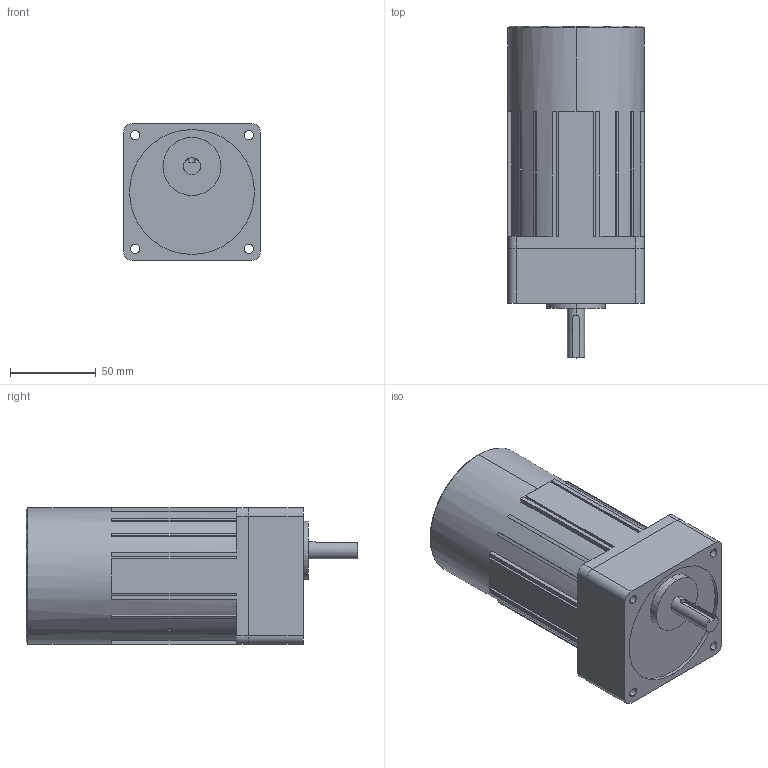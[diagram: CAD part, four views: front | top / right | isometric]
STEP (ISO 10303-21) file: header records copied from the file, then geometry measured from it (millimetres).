
FILE_DESCRIPTION (( 'STEP AP203' ), '1' );
FILE_NAME ('L8HK003B + L8R25PBLE.STEP', '2018-09-20T05:41:13', ( '' ), ( '' ), 'SwSTEP 2.0', 'SolidWorks 2017', '' );
FILE_SCHEMA (( 'CONFIG_CONTROL_DESIGN' ));
Length unit declared in the file: millimetre
Products named in the file (1): L8HK003B + L8R25PBLE
Bounding box: 80 x 194 x 80 mm (x, y, z)
Volume: 866825.1 mm3; surface area: 78160.3 mm2
Topology: 2 solids, 2 shells, 149 faces, 406 edges, 268 vertices
Faces by surface type: plane 106, cylinder 41, cone 2
Entity records: 4854 total; most frequent: CARTESIAN_POINT 854, DIRECTION 829, ORIENTED_EDGE 812, EDGE_CURVE 406, LINE 279, VECTOR 279, AXIS2_PLACEMENT_3D 275, VERTEX_POINT 268
